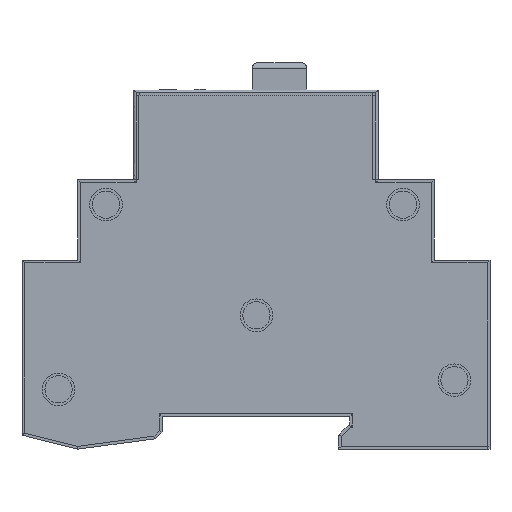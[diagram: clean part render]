
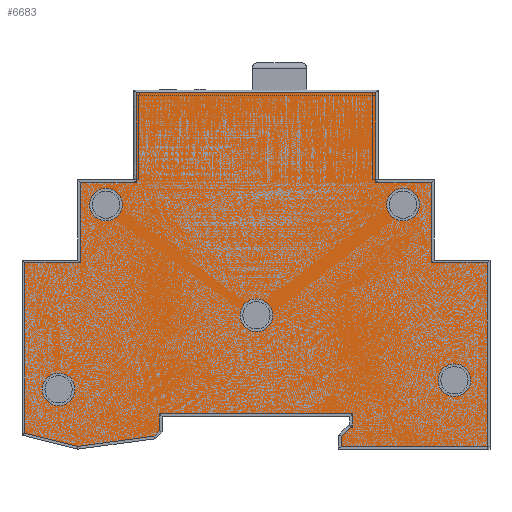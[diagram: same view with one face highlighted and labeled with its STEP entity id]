
A CAD part, left-side view. The second image highlights one B-rep face of the part: STEP entity #6683.
In plain terms, the highlighted planar face has unit normal (-1, 0, 0).
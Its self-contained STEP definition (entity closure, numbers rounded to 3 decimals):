
#383=LINE('',#9926,#949);
#384=LINE('',#9968,#950);
#385=LINE('',#10010,#951);
#386=LINE('',#10052,#952);
#387=LINE('',#10094,#953);
#388=LINE('',#10136,#954);
#389=LINE('',#10178,#955);
#390=LINE('',#10220,#956);
#391=LINE('',#10262,#957);
#393=LINE('',#10320,#959);
#394=LINE('',#10361,#960);
#397=LINE('',#10394,#963);
#399=LINE('',#10438,#965);
#401=LINE('',#10482,#967);
#403=LINE('',#10526,#969);
#405=LINE('',#10570,#971);
#407=LINE('',#10614,#973);
#409=LINE('',#10658,#975);
#411=LINE('',#10702,#977);
#413=LINE('',#10745,#979);
#414=LINE('',#10786,#980);
#949=VECTOR('',#7924,10.);
#950=VECTOR('',#7925,10.);
#951=VECTOR('',#7926,10.);
#952=VECTOR('',#7927,10.);
#953=VECTOR('',#7928,10.);
#954=VECTOR('',#7929,10.);
#955=VECTOR('',#7930,10.);
#956=VECTOR('',#7931,10.);
#957=VECTOR('',#7932,10.);
#959=VECTOR('',#7934,10.);
#960=VECTOR('',#7935,10.);
#963=VECTOR('',#7938,10.);
#965=VECTOR('',#7940,10.);
#967=VECTOR('',#7942,10.);
#969=VECTOR('',#7944,10.);
#971=VECTOR('',#7946,10.);
#973=VECTOR('',#7948,10.);
#975=VECTOR('',#7950,10.);
#977=VECTOR('',#7952,10.);
#979=VECTOR('',#7954,10.);
#980=VECTOR('',#7955,10.);
#1472=PLANE('',#7165);
#1737=FACE_BOUND('',#2388,.T.);
#1738=FACE_BOUND('',#2389,.T.);
#1739=FACE_BOUND('',#2390,.T.);
#1740=FACE_BOUND('',#2391,.T.);
#1741=FACE_BOUND('',#2392,.T.);
#1931=FACE_OUTER_BOUND('',#2387,.T.);
#2387=EDGE_LOOP('',(#4920,#4921,#4922,#4923,#4924,#4925,#4926,#4927,#4928,
#4929,#4930,#4931,#4932,#4933,#4934,#4935,#4936,#4937,#4938,#4939,#4940));
#2388=EDGE_LOOP('',(#4941));
#2389=EDGE_LOOP('',(#4942));
#2390=EDGE_LOOP('',(#4943));
#2391=EDGE_LOOP('',(#4944));
#2392=EDGE_LOOP('',(#4945));
#2899=CIRCLE('',#7166,3.);
#2900=CIRCLE('',#7167,3.);
#2901=CIRCLE('',#7168,3.);
#2902=CIRCLE('',#7169,3.);
#2903=CIRCLE('',#7170,3.);
#3140=VERTEX_POINT('',#9882);
#3141=VERTEX_POINT('',#9925);
#3142=VERTEX_POINT('',#9967);
#3143=VERTEX_POINT('',#10009);
#3144=VERTEX_POINT('',#10051);
#3145=VERTEX_POINT('',#10093);
#3146=VERTEX_POINT('',#10135);
#3147=VERTEX_POINT('',#10177);
#3148=VERTEX_POINT('',#10219);
#3149=VERTEX_POINT('',#10261);
#3152=VERTEX_POINT('',#10306);
#3153=VERTEX_POINT('',#10319);
#3155=VERTEX_POINT('',#10393);
#3157=VERTEX_POINT('',#10437);
#3159=VERTEX_POINT('',#10481);
#3161=VERTEX_POINT('',#10525);
#3163=VERTEX_POINT('',#10569);
#3165=VERTEX_POINT('',#10613);
#3167=VERTEX_POINT('',#10657);
#3169=VERTEX_POINT('',#10701);
#3170=VERTEX_POINT('',#10744);
#3171=VERTEX_POINT('',#10792);
#3172=VERTEX_POINT('',#10794);
#3173=VERTEX_POINT('',#10796);
#3174=VERTEX_POINT('',#10798);
#3175=VERTEX_POINT('',#10800);
#3819=EDGE_CURVE('',#3140,#3141,#383,.T.);
#3821=EDGE_CURVE('',#3141,#3142,#384,.T.);
#3823=EDGE_CURVE('',#3142,#3143,#385,.T.);
#3825=EDGE_CURVE('',#3143,#3144,#386,.T.);
#3827=EDGE_CURVE('',#3144,#3145,#387,.T.);
#3829=EDGE_CURVE('',#3145,#3146,#388,.T.);
#3831=EDGE_CURVE('',#3146,#3147,#389,.T.);
#3833=EDGE_CURVE('',#3147,#3148,#390,.T.);
#3835=EDGE_CURVE('',#3148,#3149,#391,.T.);
#3839=EDGE_CURVE('',#3152,#3153,#393,.T.);
#3841=EDGE_CURVE('',#3149,#3152,#394,.T.);
#3844=EDGE_CURVE('',#3153,#3155,#397,.T.);
#3847=EDGE_CURVE('',#3155,#3157,#399,.T.);
#3850=EDGE_CURVE('',#3157,#3159,#401,.T.);
#3853=EDGE_CURVE('',#3159,#3161,#403,.T.);
#3856=EDGE_CURVE('',#3161,#3163,#405,.T.);
#3859=EDGE_CURVE('',#3163,#3165,#407,.T.);
#3862=EDGE_CURVE('',#3165,#3167,#409,.T.);
#3865=EDGE_CURVE('',#3167,#3169,#411,.T.);
#3868=EDGE_CURVE('',#3169,#3170,#413,.T.);
#3870=EDGE_CURVE('',#3170,#3140,#414,.T.);
#3873=EDGE_CURVE('',#3171,#3171,#2899,.T.);
#3874=EDGE_CURVE('',#3172,#3172,#2900,.T.);
#3875=EDGE_CURVE('',#3173,#3173,#2901,.T.);
#3876=EDGE_CURVE('',#3174,#3174,#2902,.T.);
#3877=EDGE_CURVE('',#3175,#3175,#2903,.T.);
#4920=ORIENTED_EDGE('',*,*,#3839,.F.);
#4921=ORIENTED_EDGE('',*,*,#3841,.F.);
#4922=ORIENTED_EDGE('',*,*,#3835,.F.);
#4923=ORIENTED_EDGE('',*,*,#3833,.F.);
#4924=ORIENTED_EDGE('',*,*,#3831,.F.);
#4925=ORIENTED_EDGE('',*,*,#3829,.F.);
#4926=ORIENTED_EDGE('',*,*,#3827,.F.);
#4927=ORIENTED_EDGE('',*,*,#3825,.F.);
#4928=ORIENTED_EDGE('',*,*,#3823,.F.);
#4929=ORIENTED_EDGE('',*,*,#3821,.F.);
#4930=ORIENTED_EDGE('',*,*,#3819,.F.);
#4931=ORIENTED_EDGE('',*,*,#3870,.F.);
#4932=ORIENTED_EDGE('',*,*,#3868,.F.);
#4933=ORIENTED_EDGE('',*,*,#3865,.F.);
#4934=ORIENTED_EDGE('',*,*,#3862,.F.);
#4935=ORIENTED_EDGE('',*,*,#3859,.F.);
#4936=ORIENTED_EDGE('',*,*,#3856,.F.);
#4937=ORIENTED_EDGE('',*,*,#3853,.F.);
#4938=ORIENTED_EDGE('',*,*,#3850,.F.);
#4939=ORIENTED_EDGE('',*,*,#3847,.F.);
#4940=ORIENTED_EDGE('',*,*,#3844,.F.);
#4941=ORIENTED_EDGE('',*,*,#3873,.T.);
#4942=ORIENTED_EDGE('',*,*,#3874,.T.);
#4943=ORIENTED_EDGE('',*,*,#3875,.T.);
#4944=ORIENTED_EDGE('',*,*,#3876,.T.);
#4945=ORIENTED_EDGE('',*,*,#3877,.T.);
#6683=ADVANCED_FACE('',(#1931,#1737,#1738,#1739,#1740,#1741),#1472,.F.);
#7165=AXIS2_PLACEMENT_3D('',#10791,#7962,#7963);
#7166=AXIS2_PLACEMENT_3D('',#10793,#7964,#7965);
#7167=AXIS2_PLACEMENT_3D('',#10795,#7966,#7967);
#7168=AXIS2_PLACEMENT_3D('',#10797,#7968,#7969);
#7169=AXIS2_PLACEMENT_3D('',#10799,#7970,#7971);
#7170=AXIS2_PLACEMENT_3D('',#10801,#7972,#7973);
#7924=DIRECTION('',(0.,1.,0.));
#7925=DIRECTION('',(0.,0.,1.));
#7926=DIRECTION('',(0.,-0.707,0.707));
#7927=DIRECTION('',(0.,-1.,0.));
#7928=DIRECTION('',(0.,0.,1.));
#7929=DIRECTION('',(0.,1.,0.));
#7930=DIRECTION('',(0.,0.,-1.));
#7931=DIRECTION('',(0.,0.707,-0.707));
#7932=DIRECTION('',(0.,0.991,-0.134));
#7934=DIRECTION('',(0.,0.,1.));
#7935=DIRECTION('',(0.,0.97,0.243));
#7938=DIRECTION('',(0.,-1.,0.));
#7940=DIRECTION('',(0.,0.,1.));
#7942=DIRECTION('',(0.,-1.,0.));
#7944=DIRECTION('',(0.,0.,1.));
#7946=DIRECTION('',(0.,-1.,0.));
#7948=DIRECTION('',(0.,0.,-1.));
#7950=DIRECTION('',(0.,-1.,0.));
#7952=DIRECTION('',(0.,0.,-1.));
#7954=DIRECTION('',(0.,-1.,0.));
#7955=DIRECTION('',(0.,0.,-1.));
#7962=DIRECTION('center_axis',(1.,0.,0.));
#7963=DIRECTION('ref_axis',(0.,0.,-1.));
#7964=DIRECTION('center_axis',(1.,0.,0.));
#7965=DIRECTION('ref_axis',(0.,0.,-1.));
#7966=DIRECTION('center_axis',(1.,0.,0.));
#7967=DIRECTION('ref_axis',(0.,0.,-1.));
#7968=DIRECTION('center_axis',(1.,0.,0.));
#7969=DIRECTION('ref_axis',(0.,0.,-1.));
#7970=DIRECTION('center_axis',(1.,0.,0.));
#7971=DIRECTION('ref_axis',(0.,0.,-1.));
#7972=DIRECTION('center_axis',(1.,0.,0.));
#7973=DIRECTION('ref_axis',(0.,0.,-1.));
#9882=CARTESIAN_POINT('',(0.,-38.171,-28.595));
#9925=CARTESIAN_POINT('',(0.,-11.323,-28.595));
#9926=CARTESIAN_POINT('',(0.,-17.461,-28.595));
#9967=CARTESIAN_POINT('',(0.,-11.323,-26.734));
#9968=CARTESIAN_POINT('',(0.,-11.323,-14.261));
#10009=CARTESIAN_POINT('',(0.,-13.031,-25.027));
#10010=CARTESIAN_POINT('',(0.,-14.309,-23.749));
#10051=CARTESIAN_POINT('',(0.,-13.421,-25.027));
#10052=CARTESIAN_POINT('',(0.,-4.537,-25.027));
#10093=CARTESIAN_POINT('',(0.,-13.421,-22.592));
#10094=CARTESIAN_POINT('',(0.,-13.421,-11.977));
#10135=CARTESIAN_POINT('',(0.,22.079,-22.592));
#10136=CARTESIAN_POINT('',(0.,-4.586,-22.592));
#10177=CARTESIAN_POINT('',(0.,22.079,-25.709));
#10178=CARTESIAN_POINT('',(0.,22.079,-11.26));
#10219=CARTESIAN_POINT('',(0.,23.074,-26.704));
#10220=CARTESIAN_POINT('',(0.,10.853,-14.483));
#10261=CARTESIAN_POINT('',(0.,37.051,-28.587));
#10262=CARTESIAN_POINT('',(0.,11.696,-25.171));
#10306=CARTESIAN_POINT('',(0.,46.829,-26.14));
#10319=CARTESIAN_POINT('',(0.,46.829,5.158));
#10320=CARTESIAN_POINT('',(0.,46.829,-12.978));
#10361=CARTESIAN_POINT('',(0.,24.769,-31.66));
#10393=CARTESIAN_POINT('',(0.,36.579,5.158));
#10394=CARTESIAN_POINT('',(0.,25.539,5.158));
#10437=CARTESIAN_POINT('',(0.,36.579,19.905));
#10438=CARTESIAN_POINT('',(0.,36.579,3.115));
#10481=CARTESIAN_POINT('',(0.,26.329,19.905));
#10482=CARTESIAN_POINT('',(0.,20.414,19.905));
#10525=CARTESIAN_POINT('',(0.,26.329,36.405));
#10526=CARTESIAN_POINT('',(0.,26.329,10.489));
#10569=CARTESIAN_POINT('',(0.,-17.671,36.405));
#10570=CARTESIAN_POINT('',(0.,15.289,36.405));
#10613=CARTESIAN_POINT('',(0.,-17.671,19.905));
#10614=CARTESIAN_POINT('',(0.,-17.671,18.739));
#10657=CARTESIAN_POINT('',(0.,-27.921,19.905));
#10658=CARTESIAN_POINT('',(0.,-7.211,19.905));
#10701=CARTESIAN_POINT('',(0.,-27.921,5.158));
#10702=CARTESIAN_POINT('',(0.,-27.921,10.489));
#10744=CARTESIAN_POINT('',(0.,-38.171,5.158));
#10745=CARTESIAN_POINT('',(0.,-12.336,5.158));
#10786=CARTESIAN_POINT('',(0.,-38.171,3.115));
#10791=CARTESIAN_POINT('Origin',(0.,3.75,0.573));
#10792=CARTESIAN_POINT('',(0.,-22.67,18.843));
#10793=CARTESIAN_POINT('Origin',(0.,-22.67,15.843));
#10794=CARTESIAN_POINT('',(0.,-32.132,-13.422));
#10795=CARTESIAN_POINT('Origin',(0.,-32.132,-16.422));
#10796=CARTESIAN_POINT('',(0.,4.24,-1.497));
#10797=CARTESIAN_POINT('Origin',(0.,4.24,-4.497));
#10798=CARTESIAN_POINT('',(0.,40.611,-15.099));
#10799=CARTESIAN_POINT('Origin',(0.,40.611,-18.099));
#10800=CARTESIAN_POINT('',(0.,31.888,18.843));
#10801=CARTESIAN_POINT('Origin',(0.,31.888,15.843));
